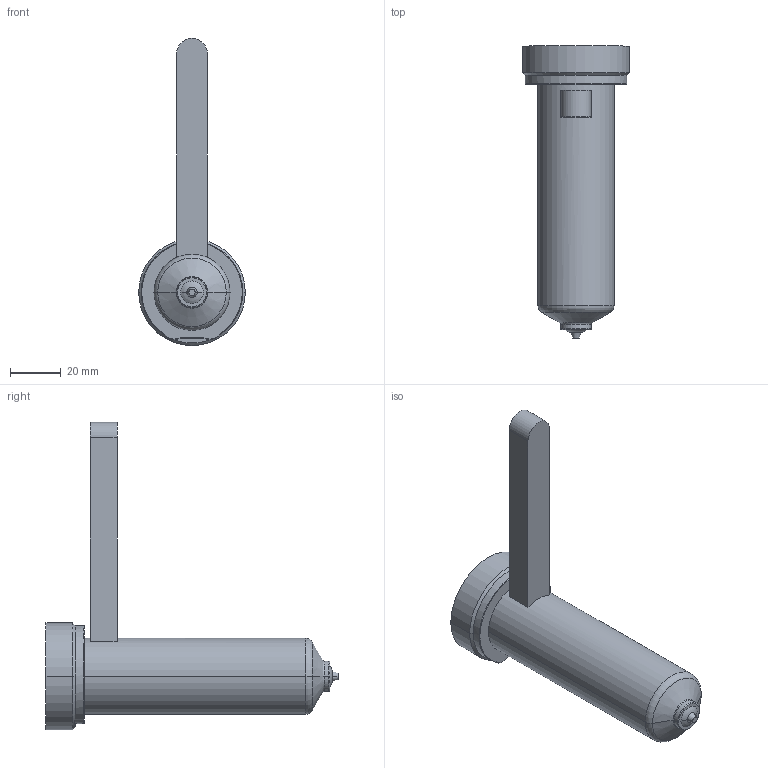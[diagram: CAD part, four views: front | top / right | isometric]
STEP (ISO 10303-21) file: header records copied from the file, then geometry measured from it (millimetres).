
FILE_DESCRIPTION((''),'2;1');
FILE_NAME('EO08_VG-BL_STD_100_COT','2024-02-19T13:05:24',('sundharh'),(''),'CREO PARAMETRIC BY PTC INC, 2023154','CREO PARAMETRIC BY PTC INC, 2023154','');
FILE_SCHEMA(('CONFIG_CONTROL_DESIGN'));
Length unit declared in the file: millimetre
Products named in the file (1): EO08_VG-BL_STD_100_COT
Bounding box: 42 x 115 x 121 mm (x, y, z)
Volume: 95928.8 mm3; surface area: 16969.7 mm2
Topology: 1 solids, 1 shells, 38 faces, 81 edges, 48 vertices
Faces by surface type: cylinder 11, plane 10, torus 9, cone 6, sphere 2
Entity records: 1135 total; most frequent: CARTESIAN_POINT 247, DIRECTION 199, ORIENTED_EDGE 162, AXIS2_PLACEMENT_3D 86, EDGE_CURVE 81, VERTEX_POINT 48, CIRCLE 48, EDGE_LOOP 41
